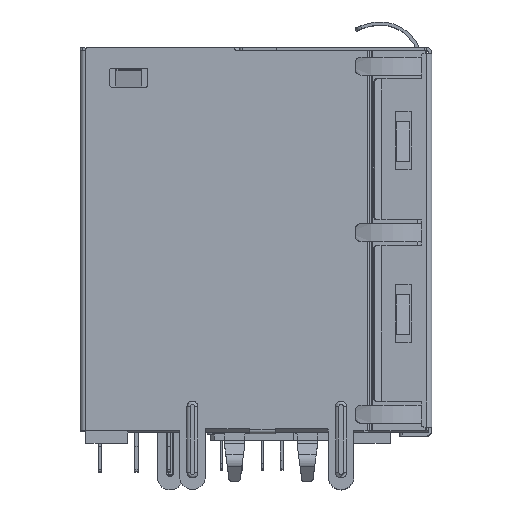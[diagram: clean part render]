
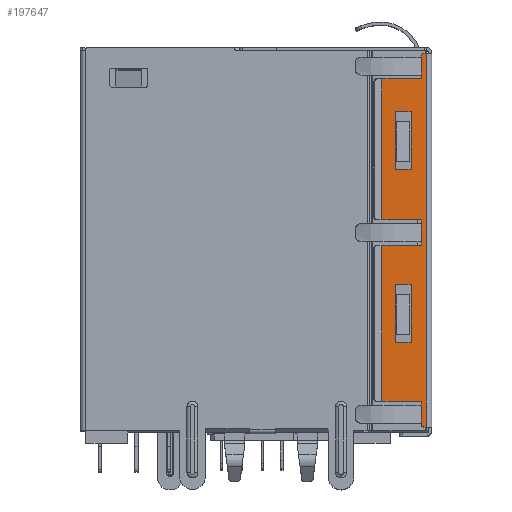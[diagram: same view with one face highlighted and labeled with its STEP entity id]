
A CAD part, top view. The second image highlights one B-rep face of the part: STEP entity #197647.
In plain terms, the highlighted planar face has unit normal (0, 0, 1).
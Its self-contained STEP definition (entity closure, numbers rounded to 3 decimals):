
#192072=CARTESIAN_POINT('',(-0.375,-0.83,9.45));
#192073=DIRECTION('',(0.,0.,1.));
#192074=DIRECTION('',(0.,1.,0.));
#192075=AXIS2_PLACEMENT_3D('',#192072,#192073,#192074);
#192077=CARTESIAN_POINT('',(-0.375,-29.6,9.45));
#192078=DIRECTION('',(0.,0.,1.));
#192079=DIRECTION('',(-1.,0.,0.));
#192080=AXIS2_PLACEMENT_3D('',#192077,#192078,#192079);
#192086=DIRECTION('',(0.,1.,0.));
#192087=VECTOR('',#192086,0.3);
#192088=CARTESIAN_POINT('',(-0.575,-28.1,9.45));
#192089=LINE('',#192088,#192087);
#192133=DIRECTION('',(0.,-1.,0.));
#192134=VECTOR('',#192133,1.4);
#192135=CARTESIAN_POINT('',(-0.575,-28.1,9.45));
#192136=LINE('',#192135,#192134);
#192202=DIRECTION('',(0.,1.,0.));
#192203=VECTOR('',#192202,0.1);
#192204=CARTESIAN_POINT('',(-0.575,-29.6,9.45));
#192205=LINE('',#192204,#192203);
#192218=DIRECTION('',(1.,0.,0.));
#192219=VECTOR('',#192218,0.175);
#192220=CARTESIAN_POINT('',(-0.375,-29.8,9.45));
#192221=LINE('',#192220,#192219);
#192240=DIRECTION('',(0.,1.,0.));
#192241=VECTOR('',#192240,29.17);
#192242=CARTESIAN_POINT('',(-0.2,-29.8,9.45));
#192243=LINE('',#192242,#192241);
#192258=DIRECTION('',(1.,0.,0.));
#192259=VECTOR('',#192258,0.175);
#192260=CARTESIAN_POINT('',(-0.375,-0.63,9.45));
#192261=LINE('',#192260,#192259);
#195796=DIRECTION('',(0.,1.,0.));
#195797=VECTOR('',#195796,0.1);
#195798=CARTESIAN_POINT('',(-0.575,-0.93,9.45));
#195799=LINE('',#195798,#195797);
#195861=DIRECTION('',(0.,-1.,0.));
#195862=VECTOR('',#195861,1.4);
#195863=CARTESIAN_POINT('',(-0.575,-0.93,9.45));
#195864=LINE('',#195863,#195862);
#195916=DIRECTION('',(0.,1.,0.));
#195917=VECTOR('',#195916,0.3);
#195918=CARTESIAN_POINT('',(-0.575,-2.63,9.45));
#195919=LINE('',#195918,#195917);
#195941=DIRECTION('',(1.,0.,0.));
#195942=VECTOR('',#195941,3.075);
#195943=CARTESIAN_POINT('',(-3.65,-2.63,9.45));
#195944=LINE('',#195943,#195942);
#195986=DIRECTION('',(0.,1.,0.));
#195987=VECTOR('',#195986,10.999);
#195988=CARTESIAN_POINT('',(-3.65,-13.628,9.45));
#195989=LINE('',#195988,#195987);
#196007=DIRECTION('',(-1.,0.,0.));
#196008=VECTOR('',#196007,3.075);
#196009=CARTESIAN_POINT('',(-0.575,-13.628,9.45));
#196010=LINE('',#196009,#196008);
#196036=DIRECTION('',(0.,1.,0.));
#196037=VECTOR('',#196036,0.3);
#196038=CARTESIAN_POINT('',(-0.575,-13.928,9.45));
#196039=LINE('',#196038,#196037);
#196083=DIRECTION('',(0.,-1.,0.));
#196084=VECTOR('',#196083,1.4);
#196085=CARTESIAN_POINT('',(-0.575,-13.928,9.45));
#196086=LINE('',#196085,#196084);
#196152=DIRECTION('',(0.,1.,0.));
#196153=VECTOR('',#196152,0.3);
#196154=CARTESIAN_POINT('',(-0.575,-15.628,9.45));
#196155=LINE('',#196154,#196153);
#196181=DIRECTION('',(1.,0.,0.));
#196182=VECTOR('',#196181,3.075);
#196183=CARTESIAN_POINT('',(-3.65,-15.628,9.45));
#196184=LINE('',#196183,#196182);
#196226=DIRECTION('',(0.,1.,0.));
#196227=VECTOR('',#196226,12.172);
#196228=CARTESIAN_POINT('',(-3.65,-27.8,9.45));
#196229=LINE('',#196228,#196227);
#196247=DIRECTION('',(-1.,0.,0.));
#196248=VECTOR('',#196247,3.075);
#196249=CARTESIAN_POINT('',(-0.575,-27.8,9.45));
#196250=LINE('',#196249,#196248);
#196296=DIRECTION('',(-1.,0.,0.));
#196297=VECTOR('',#196296,1.2);
#196298=CARTESIAN_POINT('',(-1.377,-5.18,9.45));
#196299=LINE('',#196298,#196297);
#196304=DIRECTION('',(0.,1.,0.));
#196305=VECTOR('',#196304,4.5);
#196306=CARTESIAN_POINT('',(-1.377,-9.68,9.45));
#196307=LINE('',#196306,#196305);
#196316=DIRECTION('',(1.,0.,0.));
#196317=VECTOR('',#196316,1.2);
#196318=CARTESIAN_POINT('',(-2.577,-9.68,9.45));
#196319=LINE('',#196318,#196317);
#196328=DIRECTION('',(0.,-1.,0.));
#196329=VECTOR('',#196328,4.5);
#196330=CARTESIAN_POINT('',(-2.577,-5.18,9.45));
#196331=LINE('',#196330,#196329);
#196344=DIRECTION('',(-1.,0.,0.));
#196345=VECTOR('',#196344,1.2);
#196346=CARTESIAN_POINT('',(-1.377,-18.68,9.45));
#196347=LINE('',#196346,#196345);
#196348=DIRECTION('',(0.,1.,0.));
#196349=VECTOR('',#196348,4.5);
#196350=CARTESIAN_POINT('',(-1.377,-23.18,9.45));
#196351=LINE('',#196350,#196349);
#196356=DIRECTION('',(1.,0.,0.));
#196357=VECTOR('',#196356,1.2);
#196358=CARTESIAN_POINT('',(-2.577,-23.18,9.45));
#196359=LINE('',#196358,#196357);
#196364=DIRECTION('',(0.,-1.,0.));
#196365=VECTOR('',#196364,4.5);
#196366=CARTESIAN_POINT('',(-2.577,-18.68,9.45));
#196367=LINE('',#196366,#196365);
#196400=CARTESIAN_POINT('',(-0.575,-28.1,9.45));
#196401=CARTESIAN_POINT('',(-0.575,-27.8,9.45));
#196402=VERTEX_POINT('',#196400);
#196403=VERTEX_POINT('',#196401);
#196404=CARTESIAN_POINT('',(-3.65,-27.8,9.45));
#196405=VERTEX_POINT('',#196404);
#196406=CARTESIAN_POINT('',(-3.65,-15.628,9.45));
#196407=VERTEX_POINT('',#196406);
#196408=CARTESIAN_POINT('',(-0.575,-15.628,9.45));
#196409=VERTEX_POINT('',#196408);
#196410=CARTESIAN_POINT('',(-0.575,-15.328,9.45));
#196411=VERTEX_POINT('',#196410);
#196412=CARTESIAN_POINT('',(-0.575,-13.928,9.45));
#196413=CARTESIAN_POINT('',(-0.575,-13.628,9.45));
#196414=VERTEX_POINT('',#196412);
#196415=VERTEX_POINT('',#196413);
#196416=CARTESIAN_POINT('',(-3.65,-13.628,9.45));
#196417=VERTEX_POINT('',#196416);
#196418=CARTESIAN_POINT('',(-3.65,-2.63,9.45));
#196419=VERTEX_POINT('',#196418);
#196420=CARTESIAN_POINT('',(-0.575,-2.63,9.45));
#196421=VERTEX_POINT('',#196420);
#196422=CARTESIAN_POINT('',(-0.575,-2.33,9.45));
#196423=VERTEX_POINT('',#196422);
#196424=CARTESIAN_POINT('',(-0.575,-0.93,9.45));
#196425=CARTESIAN_POINT('',(-0.575,-0.83,9.45));
#196426=VERTEX_POINT('',#196424);
#196427=VERTEX_POINT('',#196425);
#196428=CARTESIAN_POINT('',(-0.375,-0.63,9.45));
#196429=VERTEX_POINT('',#196428);
#196430=CARTESIAN_POINT('',(-0.2,-0.63,9.45));
#196431=VERTEX_POINT('',#196430);
#196432=CARTESIAN_POINT('',(-0.2,-29.8,9.45));
#196433=VERTEX_POINT('',#196432);
#196434=CARTESIAN_POINT('',(-0.375,-29.8,9.45));
#196435=VERTEX_POINT('',#196434);
#196436=CARTESIAN_POINT('',(-0.575,-29.6,9.45));
#196437=VERTEX_POINT('',#196436);
#196438=CARTESIAN_POINT('',(-0.575,-29.5,9.45));
#196439=VERTEX_POINT('',#196438);
#196440=CARTESIAN_POINT('',(-1.377,-5.18,9.45));
#196441=CARTESIAN_POINT('',(-2.577,-5.18,9.45));
#196442=VERTEX_POINT('',#196440);
#196443=VERTEX_POINT('',#196441);
#196444=CARTESIAN_POINT('',(-2.577,-9.68,9.45));
#196445=VERTEX_POINT('',#196444);
#196446=CARTESIAN_POINT('',(-1.377,-9.68,9.45));
#196447=VERTEX_POINT('',#196446);
#196448=CARTESIAN_POINT('',(-1.377,-18.68,9.45));
#196449=CARTESIAN_POINT('',(-2.577,-18.68,9.45));
#196450=VERTEX_POINT('',#196448);
#196451=VERTEX_POINT('',#196449);
#196452=CARTESIAN_POINT('',(-2.577,-23.18,9.45));
#196453=VERTEX_POINT('',#196452);
#196454=CARTESIAN_POINT('',(-1.377,-23.18,9.45));
#196455=VERTEX_POINT('',#196454);
#197580=CARTESIAN_POINT('',(-1.925,-15.215,9.45));
#197581=DIRECTION('',(0.,0.,1.));
#197582=DIRECTION('',(-1.,0.,0.));
#197583=AXIS2_PLACEMENT_3D('',#197580,#197581,#197582);
#197584=PLANE('',#197583);
#197586=ORIENTED_EDGE('',*,*,#197585,.T.);
#197588=ORIENTED_EDGE('',*,*,#197587,.T.);
#197590=ORIENTED_EDGE('',*,*,#197589,.T.);
#197592=ORIENTED_EDGE('',*,*,#197591,.T.);
#197594=ORIENTED_EDGE('',*,*,#197593,.T.);
#197596=ORIENTED_EDGE('',*,*,#197595,.F.);
#197598=ORIENTED_EDGE('',*,*,#197597,.T.);
#197600=ORIENTED_EDGE('',*,*,#197599,.T.);
#197602=ORIENTED_EDGE('',*,*,#197601,.T.);
#197604=ORIENTED_EDGE('',*,*,#197603,.T.);
#197606=ORIENTED_EDGE('',*,*,#197605,.T.);
#197608=ORIENTED_EDGE('',*,*,#197607,.F.);
#197610=ORIENTED_EDGE('',*,*,#197609,.T.);
#197612=ORIENTED_EDGE('',*,*,#197611,.F.);
#197614=ORIENTED_EDGE('',*,*,#197613,.T.);
#197616=ORIENTED_EDGE('',*,*,#197615,.F.);
#197618=ORIENTED_EDGE('',*,*,#197617,.F.);
#197620=ORIENTED_EDGE('',*,*,#197619,.F.);
#197622=ORIENTED_EDGE('',*,*,#197621,.T.);
#197624=ORIENTED_EDGE('',*,*,#197623,.F.);
#197625=EDGE_LOOP('',(#197586,#197588,#197590,#197592,#197594,#197596,#197598,
#197600,#197602,#197604,#197606,#197608,#197610,#197612,#197614,#197616,#197618,
#197620,#197622,#197624));
#197626=FACE_OUTER_BOUND('',#197625,.F.);
#197628=ORIENTED_EDGE('',*,*,#197627,.T.);
#197630=ORIENTED_EDGE('',*,*,#197629,.T.);
#197632=ORIENTED_EDGE('',*,*,#197631,.T.);
#197634=ORIENTED_EDGE('',*,*,#197633,.T.);
#197635=EDGE_LOOP('',(#197628,#197630,#197632,#197634));
#197636=FACE_BOUND('',#197635,.F.);
#197638=ORIENTED_EDGE('',*,*,#197637,.T.);
#197640=ORIENTED_EDGE('',*,*,#197639,.T.);
#197642=ORIENTED_EDGE('',*,*,#197641,.T.);
#197644=ORIENTED_EDGE('',*,*,#197643,.T.);
#197645=EDGE_LOOP('',(#197638,#197640,#197642,#197644));
#197646=FACE_BOUND('',#197645,.F.);
#197647=ADVANCED_FACE('',(#197626,#197636,#197646),#197584,.T.);
#192076=CIRCLE('',#192075,0.2);
#192081=CIRCLE('',#192080,0.2);
#197585=EDGE_CURVE('',#196402,#196403,#192089,.T.);
#197587=EDGE_CURVE('',#196403,#196405,#196250,.T.);
#197589=EDGE_CURVE('',#196405,#196407,#196229,.T.);
#197591=EDGE_CURVE('',#196407,#196409,#196184,.T.);
#197593=EDGE_CURVE('',#196409,#196411,#196155,.T.);
#197595=EDGE_CURVE('',#196414,#196411,#196086,.T.);
#197597=EDGE_CURVE('',#196414,#196415,#196039,.T.);
#197599=EDGE_CURVE('',#196415,#196417,#196010,.T.);
#197601=EDGE_CURVE('',#196417,#196419,#195989,.T.);
#197603=EDGE_CURVE('',#196419,#196421,#195944,.T.);
#197605=EDGE_CURVE('',#196421,#196423,#195919,.T.);
#197607=EDGE_CURVE('',#196426,#196423,#195864,.T.);
#197609=EDGE_CURVE('',#196426,#196427,#195799,.T.);
#197611=EDGE_CURVE('',#196429,#196427,#192076,.T.);
#197613=EDGE_CURVE('',#196429,#196431,#192261,.T.);
#197615=EDGE_CURVE('',#196433,#196431,#192243,.T.);
#197617=EDGE_CURVE('',#196435,#196433,#192221,.T.);
#197619=EDGE_CURVE('',#196437,#196435,#192081,.T.);
#197621=EDGE_CURVE('',#196437,#196439,#192205,.T.);
#197623=EDGE_CURVE('',#196402,#196439,#192136,.T.);
#197627=EDGE_CURVE('',#196442,#196443,#196299,.T.);
#197629=EDGE_CURVE('',#196443,#196445,#196331,.T.);
#197631=EDGE_CURVE('',#196445,#196447,#196319,.T.);
#197633=EDGE_CURVE('',#196447,#196442,#196307,.T.);
#197637=EDGE_CURVE('',#196450,#196451,#196347,.T.);
#197639=EDGE_CURVE('',#196451,#196453,#196367,.T.);
#197641=EDGE_CURVE('',#196453,#196455,#196359,.T.);
#197643=EDGE_CURVE('',#196455,#196450,#196351,.T.);
